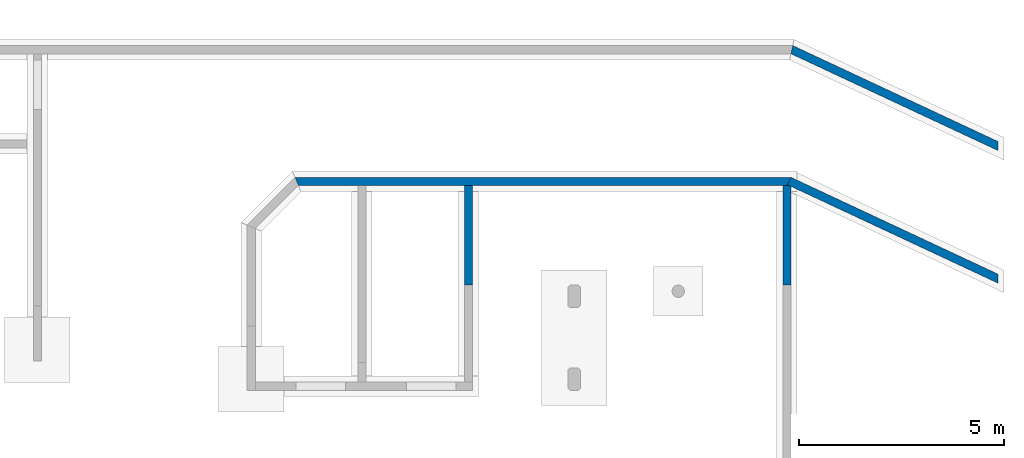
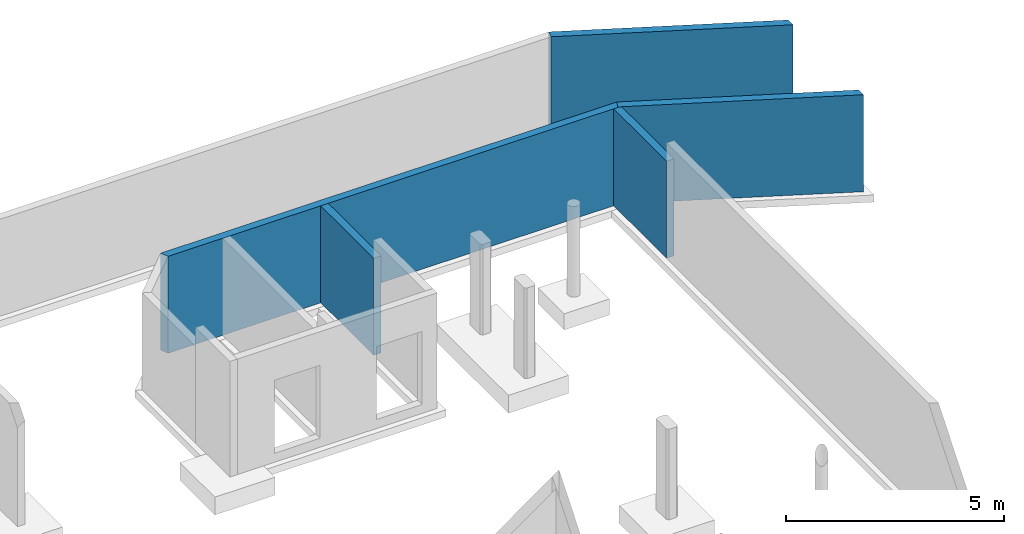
# One storey, part 5 of 6: 5 walls.
"""IFC2X3 building model written with IfcOpenShell, lengths in millimetres."""

import ifcopenshell
import ifcopenshell.guid

model = None  # the IFC model being written
_history = None  # IfcOwnerHistory: only IFC2X3 demands one
_inside = {}  # id of a spatial element -> (the spatial element, [elements in it])
_under = {}  # id of a project, library or spatial element -> (it, [spatial elements below it])
_declared = {}  # id of a project -> (the project, [libraries it declares])
_typed = {}  # id of a type object -> (the type object, [elements of that type])
_made_of = {}  # id of a material, layer set ... -> (it, [elements and type objects made of it])


def new_model(schema):
    """Start an empty IFC model of exactly this schema.

    Asked for "IFC4X3", IfcOpenShell would pick the latest addendum, in which some entities
    have other attributes; the version numbers below select the first issue.
    IFC2X3 requires an IfcOwnerHistory on every rooted entity: one is made here for all.
    """
    global model, _history
    if schema == "IFC4X3":
        model = ifcopenshell.file(schema_version=(4, 3, 0, 0))
    else:
        model = ifcopenshell.file(schema=schema)
    _inside.clear()
    _under.clear()
    _declared.clear()
    _typed.clear()
    _made_of.clear()
    _history = None
    if model.schema == "IFC2X3":
        org = make("IfcOrganization", Name="unknown")
        user = make(
            "IfcPersonAndOrganization",
            ThePerson=make("IfcPerson", FamilyName="unknown"),
            TheOrganization=org,
        )
        app = make(
            "IfcApplication",
            ApplicationDeveloper=org,
            Version="unknown",
            ApplicationFullName="unknown",
            ApplicationIdentifier="unknown",
        )
        _history = make(
            "IfcOwnerHistory",
            OwningUser=user,
            OwningApplication=app,
            ChangeAction="ADDED",
            CreationDate=0,
        )
    return model


def make(cls, **values):
    """One entity of the class cls with the attributes given. An attribute that is None is left unset."""
    return model.create_entity(
        cls, **{name: value for name, value in values.items() if value is not None}
    )


def entity(cls, *values):
    """Any entity or typed value of the class cls, its attributes in the order of the schema. None: left unset."""
    e = model.create_entity(cls)
    for i, value in enumerate(values):
        if value is not None:
            e[i] = value
    return e


def rooted(cls, **values):
    """An entity with a GlobalId (a new one), such as an element, a storey or a relation."""
    return make(cls, GlobalId=ifcopenshell.guid.new(), OwnerHistory=_history, **values)


def si_unit(unit_type, name, prefix=None):
    """IfcSIUnit, for example si_unit("LENGTHUNIT", "METRE", prefix="MILLI")."""
    return make("IfcSIUnit", UnitType=unit_type, Prefix=prefix, Name=name)


def converted_unit(unit_type, name, factor, base, dimensions=None, offset=None):
    """IfcConversionBasedUnit, such as the inch: factor (a typed value) times the base unit."""
    return make(
        "IfcConversionBasedUnit"
        if offset is None
        else "IfcConversionBasedUnitWithOffset",
        ConversionOffset=offset,
        Dimensions=None
        if dimensions is None
        else entity("IfcDimensionalExponents", *dimensions),
        UnitType=unit_type,
        Name=name,
        ConversionFactor=make(
            "IfcMeasureWithUnit", ValueComponent=factor, UnitComponent=base
        ),
    )


def assignment(units):
    """IfcUnitAssignment: the units of a project."""
    return None if units is None else make("IfcUnitAssignment", Units=units)


def point(xyz):
    """IfcCartesianPoint."""
    return None if xyz is None else make("IfcCartesianPoint", Coordinates=xyz)


def direction(xyz):
    """IfcDirection."""
    return None if xyz is None else make("IfcDirection", DirectionRatios=xyz)


def frame(location, z_axis=None, x_axis=None):
    """IfcAxis2Placement3D, a coordinate frame: its origin and axes. An axis left out is left unset."""
    return make(
        "IfcAxis2Placement3D",
        Location=point(location),
        Axis=direction(z_axis),
        RefDirection=direction(x_axis),
    )


def frame_2d(location, x_axis=None):
    """IfcAxis2Placement2D, a coordinate frame in the plane: its origin and x axis."""
    return make(
        "IfcAxis2Placement2D", Location=point(location), RefDirection=direction(x_axis)
    )


def origin():
    """The frame at (0, 0, 0) with its axes left unset."""
    return frame((0.0, 0.0, 0.0))


def origin_with_axes():
    """The frame at (0, 0, 0) with the z axis (0, 0, 1) and the x axis (1, 0, 0) written out."""
    return frame((0.0, 0.0, 0.0), z_axis=(0.0, 0.0, 1.0), x_axis=(1.0, 0.0, 0.0))


def place(relative_to, where):
    """IfcLocalPlacement: puts the frame where relative to a parent placement (None: the world)."""
    return make(
        "IfcLocalPlacement", PlacementRelTo=relative_to, RelativePlacement=where
    )


def context(
    kind, dimensions, precision=None, world=None, true_north=None, identifier=None
):
    """IfcGeometricRepresentationContext, for example the 3D "Model" context."""
    return make(
        "IfcGeometricRepresentationContext",
        ContextIdentifier=identifier,
        ContextType=kind,
        CoordinateSpaceDimension=dimensions,
        Precision=precision,
        WorldCoordinateSystem=world,
        TrueNorth=true_north,
    )


def subcontext(parent, identifier, kind, view, scale=None):
    """IfcGeometricRepresentationSubContext, for example "Body" below "Model"."""
    return make(
        "IfcGeometricRepresentationSubContext",
        ContextIdentifier=identifier,
        ContextType=kind,
        ParentContext=parent,
        TargetScale=scale,
        TargetView=view,
    )


def project(units=None, contexts=None):
    """IfcProject with its units and contexts."""
    return rooted(
        "IfcProject",
        Name="project",
        RepresentationContexts=contexts,
        UnitsInContext=assignment(units),
    )


def spatial(cls, under=None, at=None, **own):
    """A site, building, storey or space (cls), placed at a placement, below another one or the project."""
    s = rooted(cls, ObjectPlacement=at, **own)
    if under is not None:
        _under.setdefault(under.id(), (under, []))[1].append(s)
    return s


def polyline(points):
    """IfcPolyline through the points."""
    return make("IfcPolyline", Points=[point(p) for p in points])


def profile(cls, at=None, kind="AREA", **sizes):
    """A parametric profile (cls). Its sizes go by their IFC names, for example OverallWidth=200.0."""
    return make(cls, ProfileType=kind, Position=at, **sizes)


def rectangle(**sizes):
    """IfcRectangleProfileDef."""
    return profile("IfcRectangleProfileDef", **sizes)


def outline(outer, holes=None, kind="AREA"):
    """IfcArbitraryClosedProfileDef: a profile drawn as a closed curve; with holes, ...WithVoids."""
    if holes is None:
        return make("IfcArbitraryClosedProfileDef", ProfileType=kind, OuterCurve=outer)
    return make(
        "IfcArbitraryProfileDefWithVoids",
        ProfileType=kind,
        OuterCurve=outer,
        InnerCurves=holes,
    )


def extrude(swept, where, along, depth):
    """IfcExtrudedAreaSolid: the profile swept, set in the frame where, extruded along a direction by depth."""
    return make(
        "IfcExtrudedAreaSolid",
        SweptArea=swept,
        Position=where,
        ExtrudedDirection=direction(along),
        Depth=depth,
    )


def shape(context_of_items, identifier, shape_type, items):
    """IfcShapeRepresentation: the items that make up one representation, for example the "Body"."""
    return make(
        "IfcShapeRepresentation",
        ContextOfItems=context_of_items,
        RepresentationIdentifier=identifier,
        RepresentationType=shape_type,
        Items=items,
    )


def material(Name=None, Category=None):
    """IfcMaterial."""
    return make("IfcMaterial", Name=Name, Category=Category)


def layer(
    of_material, thickness, ventilated=None, Name=None, Category=None, Priority=None
):
    """IfcMaterialLayer: one layer of a wall or slab, of a material (None: an air gap)."""
    return make(
        "IfcMaterialLayer",
        Material=of_material,
        LayerThickness=thickness,
        IsVentilated=ventilated,
        Name=Name,
        Category=Category,
        Priority=Priority,
    )


def layer_set(layers, Name=None):
    """IfcMaterialLayerSet."""
    return make("IfcMaterialLayerSet", MaterialLayers=layers, LayerSetName=Name)


def layer_usage(for_layer_set, set_direction, sense, offset, extent=None):
    """IfcMaterialLayerSetUsage: how a layer set lies in its element."""
    return make(
        "IfcMaterialLayerSetUsage",
        ForLayerSet=for_layer_set,
        LayerSetDirection=set_direction,
        DirectionSense=sense,
        OffsetFromReferenceLine=offset,
        ReferenceExtent=extent,
    )


def made_of(thing, what):
    """Note that an element or type object is made of a material, layer set ...; save() writes the relation."""
    if what is not None:
        _made_of.setdefault(what.id(), (what, []))[1].append(thing)
    return thing


def element(
    cls,
    number,
    at=None,
    inside=None,
    cuts=None,
    type_object=None,
    material=None,
    context=None,
    identifier="Body",
    shape_type=None,
    held_by="IfcProductDefinitionShape",
    body=None,
    shapes=None,
    **own,
):
    """One element of the class cls, such as IfcWall. Its Tag is "e" and its number.

    at: its placement. inside: the storey or other place that contains it. cuts: it is an
    opening in that element (IfcRelVoidsElement). A single representation is given by context,
    identifier, shape_type and body (its items); several are given by shapes. held_by: the class
    of the entity that holds the representations. save() writes the other relations.
    """
    e = rooted(cls, Tag="e%d" % number, ObjectPlacement=at, **own)
    if body is not None:
        shapes = [shape(context, identifier, shape_type, body)]
    if shapes is not None:
        e.Representation = make(held_by, Representations=shapes)
    if inside is not None:
        _inside.setdefault(inside.id(), (inside, []))[1].append(e)
    if cuts is not None:
        rooted(
            "IfcRelVoidsElement", RelatingBuildingElement=cuts, RelatedOpeningElement=e
        )
    if type_object is not None:
        _typed.setdefault(type_object.id(), (type_object, []))[1].append(e)
    return made_of(e, material)


def aggregate(whole, parts):
    """IfcRelAggregates: a whole, such as a stair, and the parts it consists of."""
    return rooted("IfcRelAggregates", RelatingObject=whole, RelatedObjects=parts)


def save(model, path):
    """Write the relations noted so far, then the file.

    IfcRelAggregates (storeys below a building ...), IfcRelContainedInSpatialStructure (elements
    in a storey), IfcRelDefinesByType, IfcRelAssociatesMaterial and IfcRelDeclares: one each for
    every whole, place, type object, material and project.
    """
    for whole, parts in _under.values():
        aggregate(whole, parts)
    for where, things in _inside.values():
        rooted(
            "IfcRelContainedInSpatialStructure",
            RelatedElements=things,
            RelatingStructure=where,
        )
    for kind, things in _typed.values():
        rooted("IfcRelDefinesByType", RelatedObjects=things, RelatingType=kind)
    for what, things in _made_of.values():
        rooted("IfcRelAssociatesMaterial", RelatedObjects=things, RelatingMaterial=what)
    for by, libraries in _declared.values():
        rooted("IfcRelDeclares", RelatingContext=by, RelatedDefinitions=libraries)
    model.write(path)


model = new_model("IFC2X3")

# Units and contexts
model_context = context("Model", 3, precision=1e-05, world=origin())
body_context = subcontext(model_context, "Body", "Model", "MODEL_VIEW")
ifc_project = project(units=[si_unit("LENGTHUNIT", "METRE", prefix="MILLI"), converted_unit("PLANEANGLEUNIT", "DEGREE", entity("IfcPlaneAngleMeasure", 0.0174532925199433), si_unit("PLANEANGLEUNIT", "RADIAN"), dimensions=[0, 0, 0, 0, 0, 0, 0]), si_unit("AREAUNIT", "SQUARE_METRE"), si_unit("VOLUMEUNIT", "CUBIC_METRE")], contexts=[model_context])

# Site, building, storey
site_placement = place(None, origin())
site = spatial("IfcSite", under=ifc_project, at=site_placement, Name="Propriété", CompositionType="ELEMENT")
building_placement = place(site_placement, origin_with_axes())
building = spatial("IfcBuilding", under=site, at=building_placement, Name="Bâtiment", CompositionType="ELEMENT")
storey_placement = place(building_placement, frame((0.0, 0.0, -3300.0), z_axis=(0.0, 0.0, 1.0), x_axis=(1.0, 0.0, 0.0)))
storey = spatial("IfcBuildingStorey", under=building, at=storey_placement, Name="Sous-sol", CompositionType="ELEMENT", Elevation=-3300.0)

# Walls
ifc_material_1 = material(Name="béton")
ifc_layer_1 = layer(ifc_material_1, 200.0)
ifc_layer_set_1 = layer_set([ifc_layer_1])
ifc_layer_usage_1 = layer_usage(ifc_layer_set_1, "AXIS2", "POSITIVE", 0.0)
wall_1_placement = place(storey_placement, frame((27170.58775641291, 16184.42987471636, 0.0), z_axis=(0.0, 0.0, 1.0), x_axis=(1.0, -4.556753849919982e-16, 0.0)))
element("IfcWallStandardCase", 1, at=wall_1_placement, inside=storey, material=ifc_layer_usage_1, Name="<Unnamed Element>", context=body_context, shape_type="SweptSolid", body=[
    extrude(outline(polyline([(0.0, 0.0), (11975.56065209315, 0.0), (11935.30291699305, 18.81941569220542), (12020.0, 200.0), (-82.8427124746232, 199.9999999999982), (0.0, 0.0)])), origin_with_axes(), (0.0, 0.0, 1.0), 2720.0),
])
ifc_material_2 = material(Name="béton")
ifc_layer_2 = layer(ifc_material_2, 200.0000000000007)
ifc_layer_set_2 = layer_set([ifc_layer_2])
ifc_layer_usage_2 = layer_usage(ifc_layer_set_2, "AXIS2", "POSITIVE", 0.0)
wall_2_placement = place(storey_placement, frame((44239.56530796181, 17260.151401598, 0.0), z_axis=(0.0, 0.0, 1.0), x_axis=(-0.9059029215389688, 0.4234854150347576, 0.0)))
element("IfcWallStandardCase", 2, at=wall_2_placement, inside=storey, material=ifc_layer_usage_2, Name="<Unnamed Element>", context=body_context, shape_type="SweptSolid", body=[
    extrude(outline(polyline([(0.0, 0.0), (5524.364790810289, 0.0), (5479.926159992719, 200.0000000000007), (-93.49465709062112, 199.9999999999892), (0.0, 0.0)])), origin_with_axes(), (0.0, 0.0, 1.0), 2720.0),
])
ifc_material_3 = material(Name="béton")
ifc_layer_3 = layer(ifc_material_3, 199.9999999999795)
ifc_layer_set_3 = layer_set([ifc_layer_3])
ifc_layer_usage_3 = layer_usage(ifc_layer_set_3, "AXIS2", "POSITIVE", 0.0)
wall_3_placement = place(storey_placement, frame((44239.56530796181, 14024.16775050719, 0.0), z_axis=(0.0, 0.0, 1.0), x_axis=(-0.9059029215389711, 0.4234854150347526, 0.0)))
element("IfcWallStandardCase", 3, at=wall_3_placement, inside=storey, material=ifc_layer_usage_3, Name="<Unnamed Element>", context=body_context, shape_type="SweptSolid", body=[
    extrude(outline(polyline([(0.0, 0.0), (5573.420099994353, 0.0), (5573.420099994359, 199.9999999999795), (-93.4946570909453, 199.9999999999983), (0.0, 0.0)])), origin_with_axes(), (0.0, 0.0, 1.0), 2720.0),
])
ifc_material_4 = material(Name="béton")
ifc_layer_4 = layer(ifc_material_4, 200.0)
ifc_layer_set_4 = layer_set([ifc_layer_4])
ifc_layer_usage_4 = layer_usage(ifc_layer_set_4, "AXIS2", "POSITIVE", 0.0)
wall_4_placement = place(storey_placement, frame((31420.58775641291, 13754.42987471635, 0.0), z_axis=(0.0, 0.0, 1.0), x_axis=(0.0, 1.0, 0.0)))
element("IfcWallStandardCase", 4, at=wall_4_placement, inside=storey, material=ifc_layer_usage_4, Name="<Unnamed Element>", context=body_context, shape_type="SweptSolid", body=[
    extrude(rectangle(XDim=2430.000000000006, YDim=200.0, at=frame_2d((1215.000000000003, 100.0), x_axis=(1.0, 0.0))), origin_with_axes(), (0.0, 0.0, 1.0), 2720.0),
])
ifc_material_5 = material(Name="béton")
ifc_layer_5 = layer(ifc_material_5, 200.0)
ifc_layer_set_5 = layer_set([ifc_layer_5])
ifc_layer_usage_5 = layer_usage(ifc_layer_set_5, "AXIS2", "POSITIVE", 0.0)
wall_5_placement = place(storey_placement, frame((39190.58775641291, 13754.42987471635, 0.0), z_axis=(0.0, 0.0, 1.0), x_axis=(0.0, 1.0, 0.0)))
element("IfcWallStandardCase", 5, at=wall_5_placement, inside=storey, material=ifc_layer_usage_5, Name="<Unnamed Element>", context=body_context, shape_type="SweptSolid", body=[
    extrude(outline(polyline([(0.0, 0.0), (2409.22579203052, 0.0), (2430.0, 44.43934790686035), (2430.0, 200.0), (0.0, 200.0), (0.0, 0.0)])), origin_with_axes(), (0.0, 0.0, 1.0), 2720.0),
])

save(model, "model.ifc")
